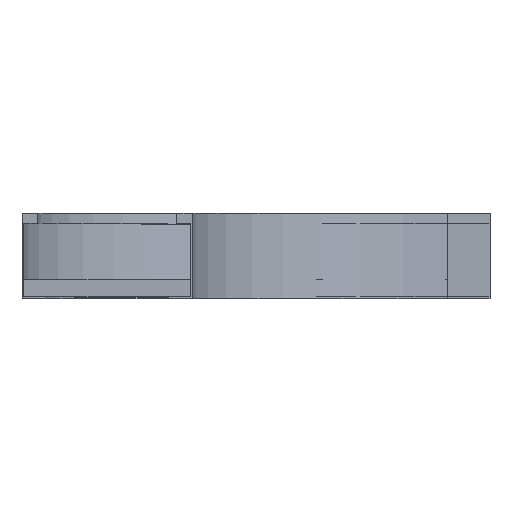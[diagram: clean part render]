
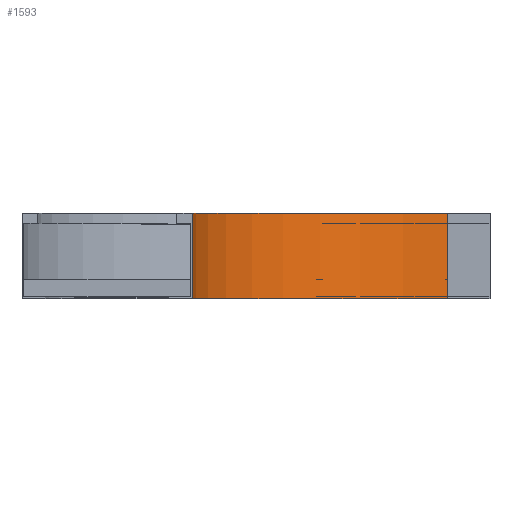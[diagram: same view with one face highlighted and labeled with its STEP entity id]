
A CAD part, top view. The second image highlights one B-rep face of the part: STEP entity #1593.
In plain terms, the highlighted cylindrical face has radius 300 mm (diameter 600 mm), a partial arc.
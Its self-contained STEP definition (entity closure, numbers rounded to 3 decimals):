
#7 = AXIS2_PLACEMENT_3D ( 'NONE', #577, #1199, #888 ) ;
#31 = CARTESIAN_POINT ( 'NONE',  ( 300., 0., -50. ) ) ;
#41 = CYLINDRICAL_SURFACE ( 'NONE', #1221, 300. ) ;
#51 = DIRECTION ( 'NONE',  ( 0., 1., 0. ) ) ;
#158 = VERTEX_POINT ( 'NONE', #1619 ) ;
#181 = EDGE_CURVE ( 'NONE', #1535, #1364, #323, .T. ) ;
#198 = AXIS2_PLACEMENT_3D ( 'NONE', #31, #612, #1606 ) ;
#323 = CIRCLE ( 'NONE', #7, 300. ) ;
#465 = LINE ( 'NONE', #1479, #1349 ) ;
#521 = EDGE_CURVE ( 'NONE', #158, #1535, #465, .T. ) ;
#546 = EDGE_CURVE ( 'NONE', #158, #962, #765, .T. ) ;
#577 = CARTESIAN_POINT ( 'NONE',  ( 300., 100., -50. ) ) ;
#596 = VECTOR ( 'NONE', #51, 1000. ) ;
#612 = DIRECTION ( 'NONE',  ( 0., -1., 0. ) ) ;
#765 = CIRCLE ( 'NONE', #198, 300. ) ;
#772 = LINE ( 'NONE', #1197, #596 ) ;
#784 = ORIENTED_EDGE ( 'NONE', *, *, #521, .F. ) ;
#888 = DIRECTION ( 'NONE',  ( -1., 0., 0. ) ) ;
#916 = EDGE_LOOP ( 'NONE', ( #1107, #784, #1381, #1483 ) ) ;
#962 = VERTEX_POINT ( 'NONE', #1442 ) ;
#978 = CARTESIAN_POINT ( 'NONE',  ( 300., 100., -350. ) ) ;
#1073 = DIRECTION ( 'NONE',  ( 0., -1., 0. ) ) ;
#1107 = ORIENTED_EDGE ( 'NONE', *, *, #181, .F. ) ;
#1197 = CARTESIAN_POINT ( 'NONE',  ( 300., 0., -350. ) ) ;
#1199 = DIRECTION ( 'NONE',  ( 0., -1., 0. ) ) ;
#1202 = DIRECTION ( 'NONE',  ( 0., 0., -1. ) ) ;
#1221 = AXIS2_PLACEMENT_3D ( 'NONE', #1506, #1073, #1202 ) ;
#1349 = VECTOR ( 'NONE', #1633, 1000. ) ;
#1364 = VERTEX_POINT ( 'NONE', #978 ) ;
#1368 = CARTESIAN_POINT ( 'NONE',  ( 0., 100., -50. ) ) ;
#1381 = ORIENTED_EDGE ( 'NONE', *, *, #546, .T. ) ;
#1382 = EDGE_CURVE ( 'NONE', #962, #1364, #772, .T. ) ;
#1442 = CARTESIAN_POINT ( 'NONE',  ( 300., 0., -350. ) ) ;
#1479 = CARTESIAN_POINT ( 'NONE',  ( 0., 0., -50. ) ) ;
#1483 = ORIENTED_EDGE ( 'NONE', *, *, #1382, .T. ) ;
#1506 = CARTESIAN_POINT ( 'NONE',  ( 300., 0., -50. ) ) ;
#1535 = VERTEX_POINT ( 'NONE', #1368 ) ;
#1593 = ADVANCED_FACE ( 'NONE', ( #1773 ), #41, .F. ) ;
#1606 = DIRECTION ( 'NONE',  ( -1., 0., 0. ) ) ;
#1619 = CARTESIAN_POINT ( 'NONE',  ( 0., 0., -50. ) ) ;
#1633 = DIRECTION ( 'NONE',  ( 0., 1., 0. ) ) ;
#1773 = FACE_OUTER_BOUND ( 'NONE', #916, .T. ) ;
